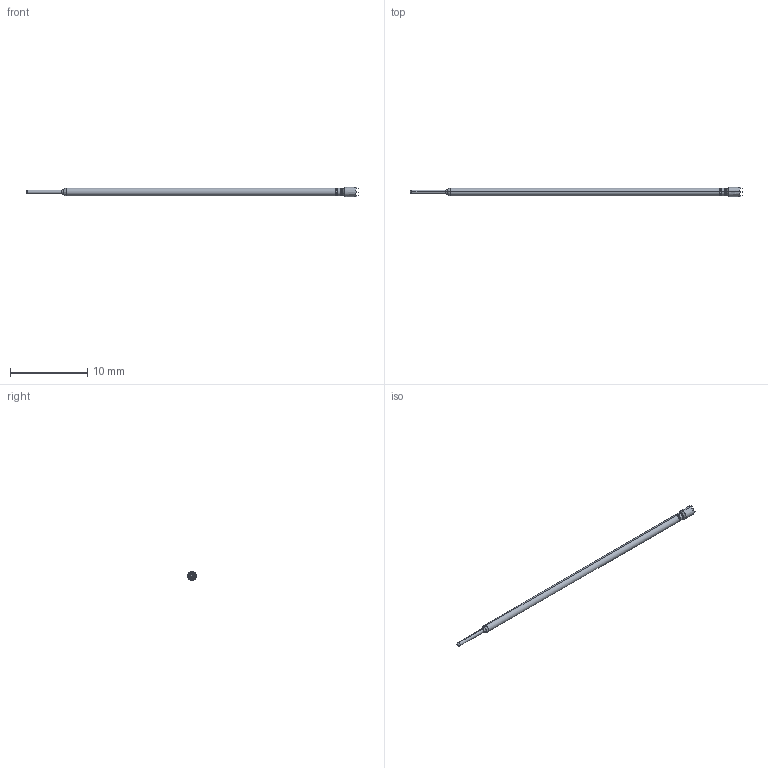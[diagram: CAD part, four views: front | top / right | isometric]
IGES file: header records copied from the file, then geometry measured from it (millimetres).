
Start section: SolidWorks IGES file using analytic representation for surfaces
Global section: file name: C:\Documents and Settings\mrumschlag\Desktop\changes\new\test\H FULL.IGS; native system: SolidWorks 2011; preprocessor: SolidWorks 2011; author: mrumschlag; date: 110630.142315; units: inch
Bounding box: 42.93 x 1.19 x 1.19 mm (x, y, z)
Surface area: 126.3 mm2 (no closed solid volume)
Topology: 0 solids, 0 shells, 53 faces, 246 edges, 244 vertices
Faces by surface type: bspline 37, revolution 16
